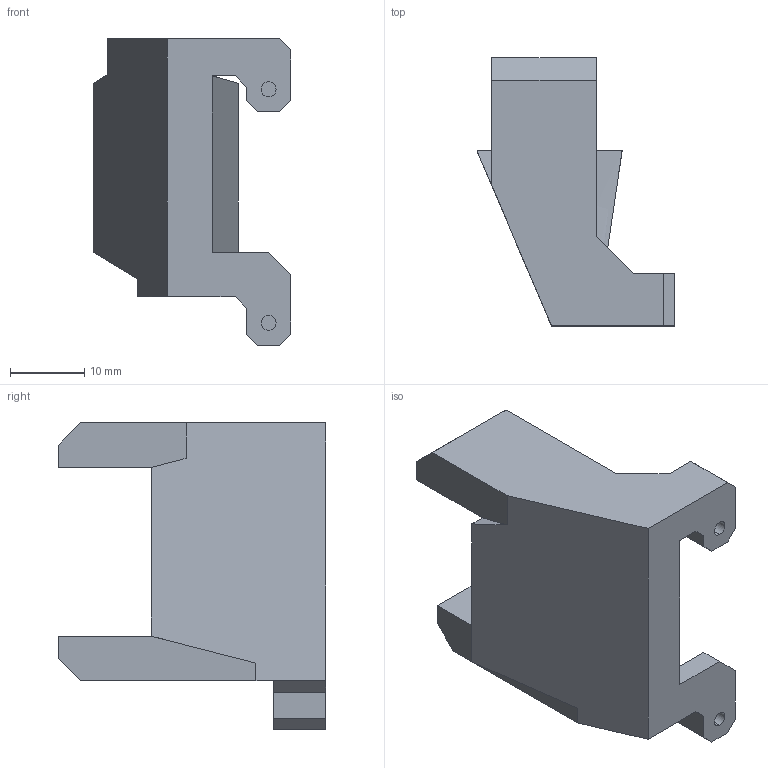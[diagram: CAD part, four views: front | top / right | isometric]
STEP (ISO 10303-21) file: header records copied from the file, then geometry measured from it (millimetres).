
FILE_DESCRIPTION (( 'STEP AP203' ), '1' );
FILE_NAME ('CAMTILT-SERVO-MOUNT-R2.STEP', '2016-09-07T19:57:06', ( '' ), ( '' ), 'SwSTEP 2.0', 'SolidWorks 2014', '' );
FILE_SCHEMA (( 'CONFIG_CONTROL_DESIGN' ));
Length unit declared in the file: millimetre
Products named in the file (1): CAMTILT-SERVO-MOUNT-R2
Bounding box: 26.6 x 36 x 41.2 mm (x, y, z)
Volume: 12558.2 mm3; surface area: 4835.6 mm2
Topology: 1 solids, 1 shells, 55 faces, 143 edges, 94 vertices
Faces by surface type: plane 43, cylinder 8, bspline 4
Entity records: 2055 total; most frequent: CARTESIAN_POINT 636, ORIENTED_EDGE 286, DIRECTION 256, EDGE_CURVE 143, VECTOR 120, LINE 120, VERTEX_POINT 94, AXIS2_PLACEMENT_3D 68
